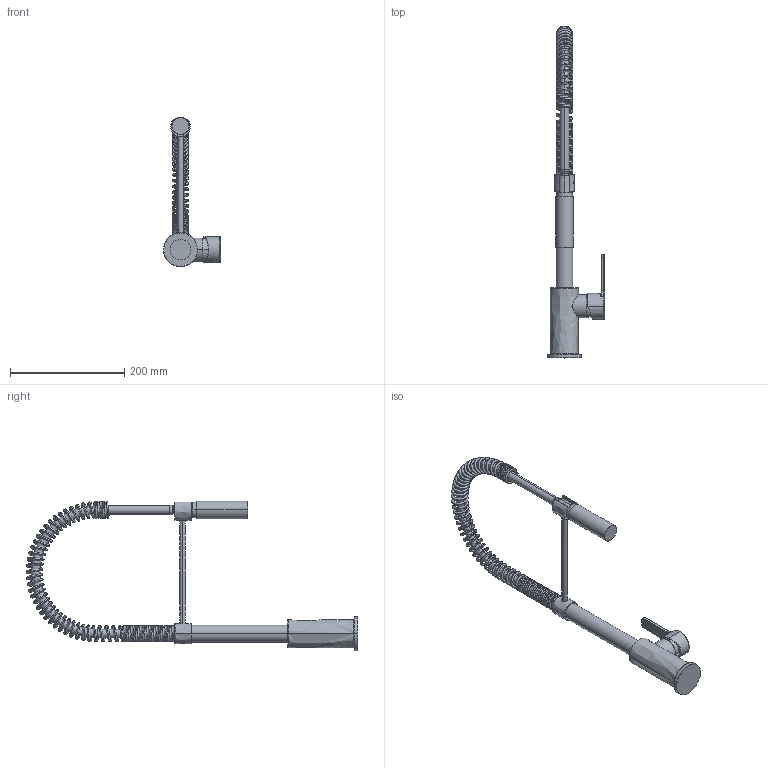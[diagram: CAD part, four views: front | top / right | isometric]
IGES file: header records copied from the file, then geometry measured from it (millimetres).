
Start section:  PTC IGES file: f3537_1_smeg.igs
Global section: file name: f3537_1_smeg.igs; native system: Creo Parametric by Parametric Technology Corporation; preprocessor: 2012130; author: ivanv; organization: Unknown; date: 20130201.164553; units: millimetre
Bounding box: 99.95 x 581.9 x 262.1 mm (x, y, z)
Volume: 504145.8 mm3; surface area: 230799.4 mm2
Topology: 3 solids, 3 shells, 436 faces, 1054 edges, 645 vertices
Faces by surface type: revolution 305, bspline 131
